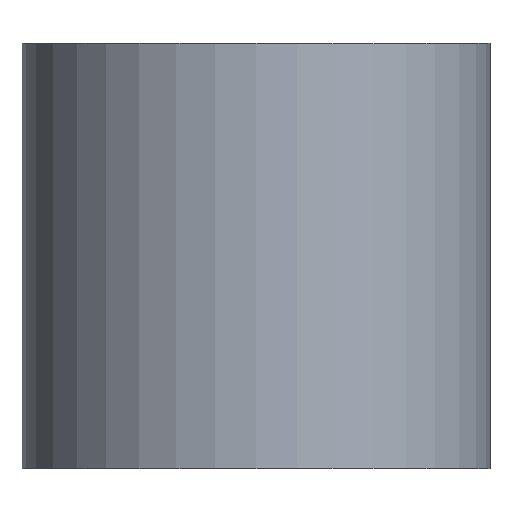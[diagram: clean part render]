
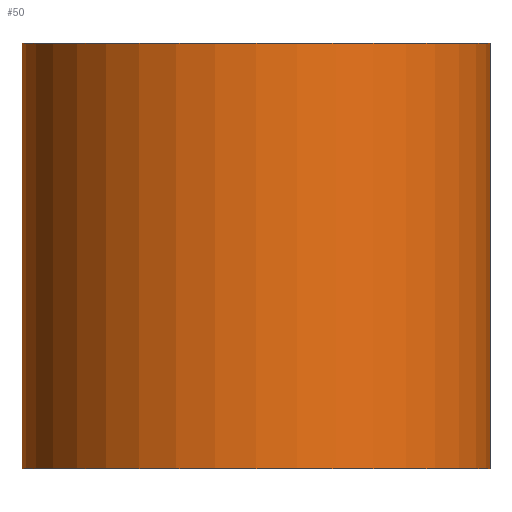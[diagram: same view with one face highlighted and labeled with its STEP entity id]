
A CAD part, front view. The second image highlights one B-rep face of the part: STEP entity #50.
In plain terms, the highlighted face is a offset surface.
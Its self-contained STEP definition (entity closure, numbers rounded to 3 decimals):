
#1=CARTESIAN_POINT('',(0.,0.,0.));
#2=CARTESIAN_POINT('',(0.,0.,20.));
#3=CARTESIAN_POINT('',(11.,0.,0.));
#4=CARTESIAN_POINT('',(11.,0.,20.));
#10=DIRECTION('',(0.,0.,1.));
#11=DIRECTION('',(1.,0.,0.));
#12=VECTOR('',#10,1.);
#13=AXIS2_PLACEMENT_3D('',#1,#10,#11);
#14=AXIS2_PLACEMENT_3D('',#2,#10,#11);
#20=CIRCLE('',#13,10.);
#21=CIRCLE('',#13,11.);
#22=CIRCLE('',#14,11.);
#30=VERTEX_POINT('',#3);
#31=VERTEX_POINT('',#4);
#40=EDGE_CURVE('',#30,#30,#21,.T.);
#41=EDGE_CURVE('',#31,#31,#22,.T.);
#42=ORIENTED_EDGE('',*,*,#40,.T.);
#43=ORIENTED_EDGE('',*,*,#41,.F.);
#44=EDGE_LOOP('',(#42));
#45=EDGE_LOOP('',(#43));
#46=FACE_OUTER_BOUND('',#44,.T.);
#47=FACE_BOUND('',#45,.T.);
#48=SURFACE_OF_LINEAR_EXTRUSION('',#20,#12);
#49=OFFSET_SURFACE('',#48,1.,.F.);
#50=ADVANCED_FACE('',(#46,#47),#49,.T.);
